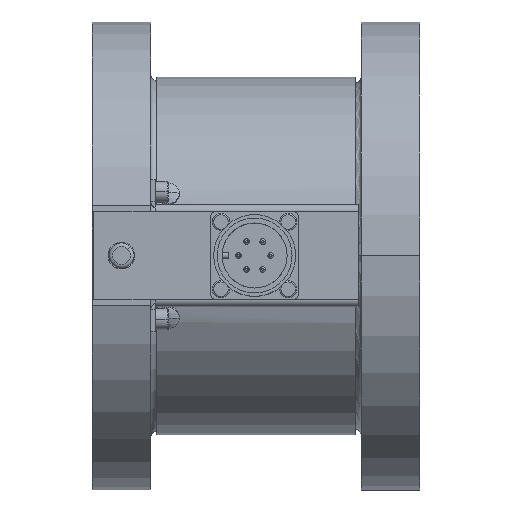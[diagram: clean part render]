
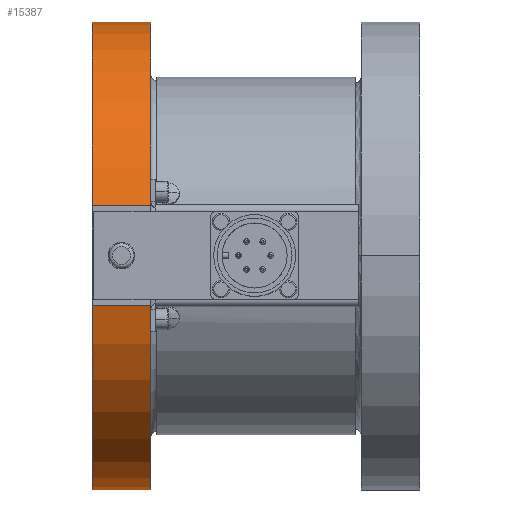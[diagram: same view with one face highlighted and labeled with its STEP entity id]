
A CAD part, top view. The second image highlights one B-rep face of the part: STEP entity #15387.
In plain terms, the highlighted cylindrical face has radius 63.5 mm (diameter 127 mm), a partial arc.
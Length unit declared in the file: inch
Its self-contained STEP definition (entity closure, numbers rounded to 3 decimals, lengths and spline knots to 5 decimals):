
#12060 = AXIS2_PLACEMENT_3D ( 'NONE', #14530, #14531, #14532 ) ;
#12061 = AXIS2_PLACEMENT_3D ( 'NONE', #14533, #14534, #14535 ) ;
#12766 = LINE ( 'NONE', #14529, #12776 ) ;
#12771 = CIRCLE ( 'NONE', #12060, 2.5 ) ;
#12775 = CIRCLE ( 'NONE', #12061, 2.5 ) ;
#12776 = VECTOR ( 'NONE', #14524, 39.37008 ) ;
#12777 = LINE ( 'NONE', #14507, #12779 ) ;
#12779 = VECTOR ( 'NONE', #14528, 39.37008 ) ;
#13731 = CARTESIAN_POINT ( 'NONE',  ( -1.125, -0.5308, 2.443 ) ) ;
#13741 = CARTESIAN_POINT ( 'NONE',  ( -1.75, -0.5308, 2.443 ) ) ;
#13742 = CARTESIAN_POINT ( 'NONE',  ( -1.75, 0.5308, 2.443 ) ) ;
#13811 = CARTESIAN_POINT ( 'NONE',  ( -1.125, 0.5308, 2.443 ) ) ;
#14507 = CARTESIAN_POINT ( 'NONE',  ( 1.75, 0.5308, 2.443 ) ) ;
#14524 = DIRECTION ( 'NONE',  ( -1., 0., 0. ) ) ;
#14528 = DIRECTION ( 'NONE',  ( 1., 0., 0. ) ) ;
#14529 = CARTESIAN_POINT ( 'NONE',  ( 1.75, -0.5308, 2.443 ) ) ;
#14530 = CARTESIAN_POINT ( 'NONE',  ( -1.125, 0., 0. ) ) ;
#14531 = DIRECTION ( 'NONE',  ( -1., 0., 0. ) ) ;
#14532 = DIRECTION ( 'NONE',  ( 0., 0., 1. ) ) ;
#14533 = CARTESIAN_POINT ( 'NONE',  ( -1.75, 0., 0. ) ) ;
#14534 = DIRECTION ( 'NONE',  ( 1., 0., 0. ) ) ;
#14535 = DIRECTION ( 'NONE',  ( 0., 0., -1. ) ) ;
#15119 = EDGE_LOOP ( 'NONE', ( #16144, #16145, #16146, #16147 ) ) ;
#15387 = ADVANCED_FACE ( 'NONE', ( #23423 ), #23432, .T. ) ;
#16144 = ORIENTED_EDGE ( 'NONE', *, *, #21554, .T. ) ;
#16145 = ORIENTED_EDGE ( 'NONE', *, *, #21555, .T. ) ;
#16146 = ORIENTED_EDGE ( 'NONE', *, *, #21556, .T. ) ;
#16147 = ORIENTED_EDGE ( 'NONE', *, *, #21557, .T. ) ;
#21218 = VERTEX_POINT ( 'NONE', #13731 ) ;
#21223 = VERTEX_POINT ( 'NONE', #13741 ) ;
#21224 = VERTEX_POINT ( 'NONE', #13742 ) ;
#21293 = VERTEX_POINT ( 'NONE', #13811 ) ;
#21554 = EDGE_CURVE ( 'NONE', #21293, #21218, #12771, .T. ) ;
#21555 = EDGE_CURVE ( 'NONE', #21218, #21223, #12766, .T. ) ;
#21556 = EDGE_CURVE ( 'NONE', #21223, #21224, #12775, .T. ) ;
#21557 = EDGE_CURVE ( 'NONE', #21224, #21293, #12777, .T. ) ;
#21866 = AXIS2_PLACEMENT_3D ( 'NONE', #23327, #23328, #23337 ) ;
#23327 = CARTESIAN_POINT ( 'NONE',  ( 1.75, 0., 0. ) ) ;
#23328 = DIRECTION ( 'NONE',  ( -1., 0., 0. ) ) ;
#23337 = DIRECTION ( 'NONE',  ( 0., 0., 1. ) ) ;
#23423 = FACE_OUTER_BOUND ( 'NONE', #15119, .T. ) ;
#23432 = CYLINDRICAL_SURFACE ( 'NONE', #21866, 2.5 ) ;
